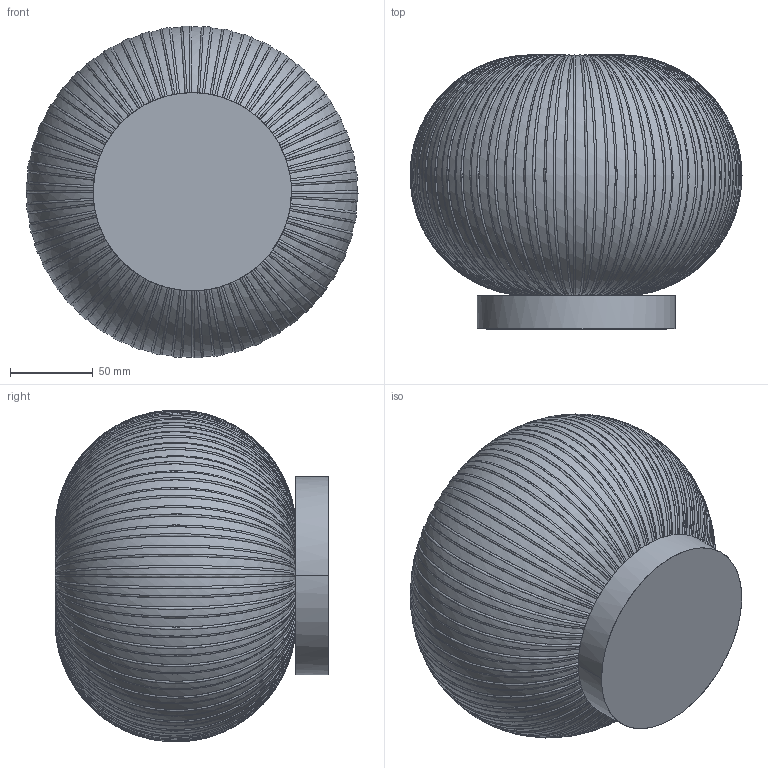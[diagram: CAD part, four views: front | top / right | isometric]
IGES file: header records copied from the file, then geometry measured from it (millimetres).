
Start section: SolidWorks IGES file using analytic representation for surfaces
Global section: file name: C:\Users\adrian\Desktop\Nueva Colección Enero 2026\3D\drive-download-20251230T145340Z-1-001\IRZO\A1353.STEP.IGS; native system: SolidWorks 2023; preprocessor: SolidWorks 2023; author: adrian; date: 251230.162130; units: millimetre
Bounding box: 201 x 165.85 x 200.98 mm (x, y, z)
Surface area: 193362.3 mm2 (no closed solid volume)
Topology: 0 solids, 0 shells, 260 faces, 2089 edges, 2084 vertices
Faces by surface type: bspline 256, revolution 4
